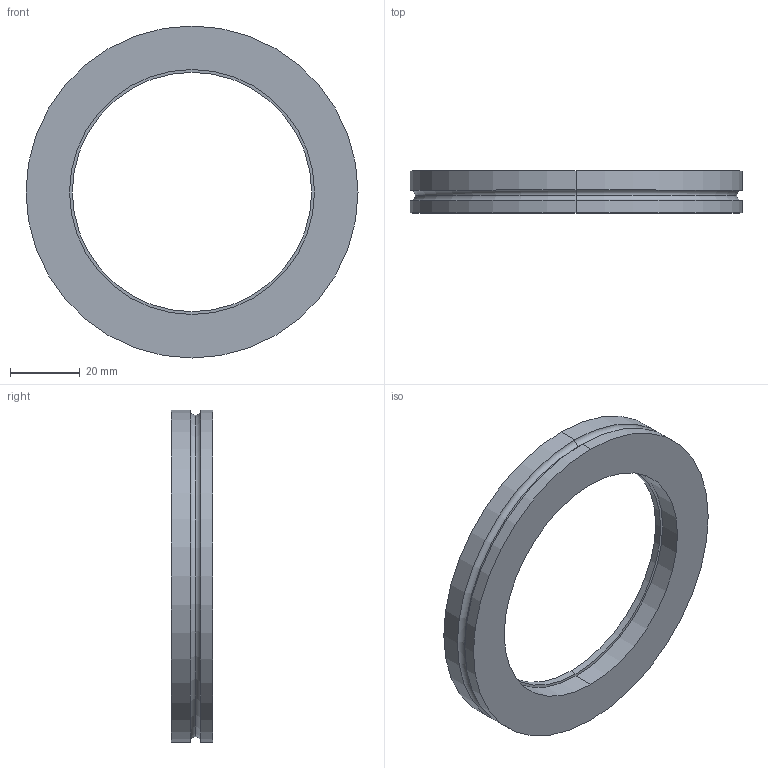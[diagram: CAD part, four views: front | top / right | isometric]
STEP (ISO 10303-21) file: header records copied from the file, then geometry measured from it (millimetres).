
FILE_DESCRIPTION (( 'STEP AP214' ), '1' );
FILE_NAME ('W4KL63.STEP', '2019-03-27T14:57:53', ( '' ), ( '' ), 'SwSTEP 2.0', 'SolidWorks 2018', '' );
FILE_SCHEMA (( 'AUTOMOTIVE_DESIGN' ));
Length unit declared in the file: millimetre
Products named in the file (1): W4KL63
Bounding box: 95 x 12 x 95 mm (x, y, z)
Volume: 31290.2 mm3; surface area: 13674.3 mm2
Topology: 1 solids, 1 shells, 21 faces, 42 edges, 26 vertices
Faces by surface type: cylinder 12, plane 5, torus 4
Entity records: 596 total; most frequent: DIRECTION 116, CARTESIAN_POINT 90, ORIENTED_EDGE 84, AXIS2_PLACEMENT_3D 52, EDGE_CURVE 42, CIRCLE 30, EDGE_LOOP 26, VERTEX_POINT 26
